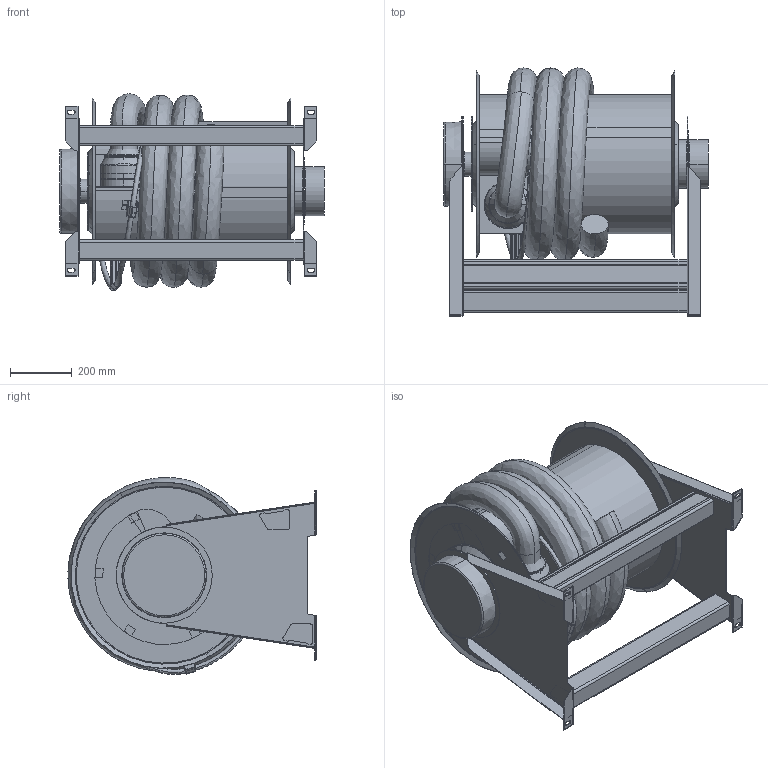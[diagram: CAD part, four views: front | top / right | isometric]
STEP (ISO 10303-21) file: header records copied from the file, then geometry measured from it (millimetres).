
FILE_DESCRIPTION((''),'2;1');
FILE_NAME('ASE_65-75-5_SW0001','2016-12-15T',('Martin Eriksson'),(''),'CREO PARAMETRIC BY PTC INC, 2016130','CREO PARAMETRIC BY PTC INC, 2016130','');
FILE_SCHEMA(('AUTOMOTIVE_DESIGN { 1 0 10303 214 1 1 1 1 }'));
Length unit declared in the file: millimetre
Products named in the file (1): ASE_65-75-5_SW0001
Bounding box: 853.5 x 800.46 x 635.54 mm (x, y, z)
Surface area: 5719145.6 mm2 (no closed solid volume)
Topology: 0 solids, 30 shells, 424 faces, 1331 edges, 910 vertices
Faces by surface type: plane 216, cylinder 118, torus 37, bspline 29, cone 24
Entity records: 23443 total; most frequent: CARTESIAN_POINT 9217, DIRECTION 2508, ORIENTED_EDGE 2076, EDGE_CURVE 1331, VERTEX_POINT 910, VECTOR 836, LINE 836, AXIS2_PLACEMENT_3D 836
